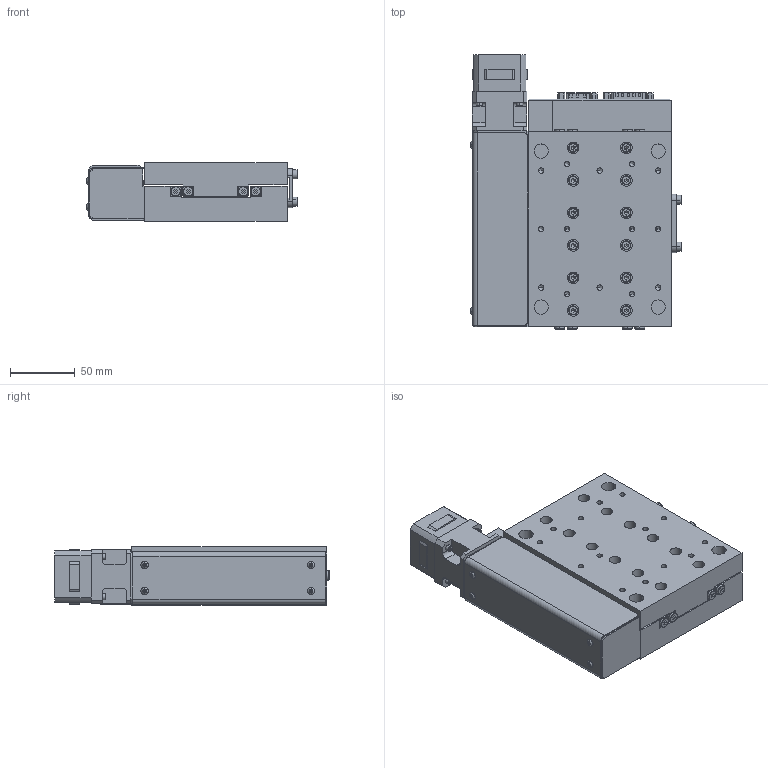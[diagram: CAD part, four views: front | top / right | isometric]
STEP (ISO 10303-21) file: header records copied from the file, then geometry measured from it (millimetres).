
FILE_DESCRIPTION (( 'STEP AP214' ), '1' );
FILE_NAME ('LNS-050-BS-B-N-S-EXPORT.STEP', '2025-06-27T18:08:04', ( 'lab' ), ( '' ), 'SwSTEP 2.0', 'SolidWorks 2018', '' );
FILE_SCHEMA (( 'AUTOMOTIVE_DESIGN' ));
Length unit declared in the file: millimetre
Products named in the file (10): 1000001_50 Stepper Ballscrew; 1000012_file_export17; 1000004_Export; 1000013_file_export22; 1000010_file_export16; 1000015_file_export21; 1000005_HX-SHCS 0.112-40x0.5x0.5-N; 1000011_file_export14; 1000014_file_export23; LNS-050-BS-B-N-S-EXPORT
Assembly tree (18 placements, depth 2):
  LNS-050-BS-B-N-S-EXPORT
    1000001_50 Stepper Ballscrew
    1000004_Export
    1000005_HX-SHCS 0.112-40x0.5x0.5-N  x4
    1000010_file_export16  x4
    1000011_file_export14
    1000012_file_export17
    1000013_file_export22  x4
    1000014_file_export23
    1000015_file_export21
Bounding box: 162.5 x 211.14 x 45 mm (x, y, z)
Volume: 1100478.9 mm3; surface area: 222417.2 mm2
Topology: 74 solids, 74 shells, 1827 faces, 4157 edges, 2514 vertices
Faces by surface type: plane 1103, cylinder 366, cone 180, bspline 170, torus 8
Entity records: 55907 total; most frequent: CARTESIAN_POINT 13804, DIRECTION 7285, ORIENTED_EDGE 7222, EDGE_CURVE 3611, AXIS2_PLACEMENT_3D 2465, VECTOR 2355, LINE 2355, VERTEX_POINT 2244
